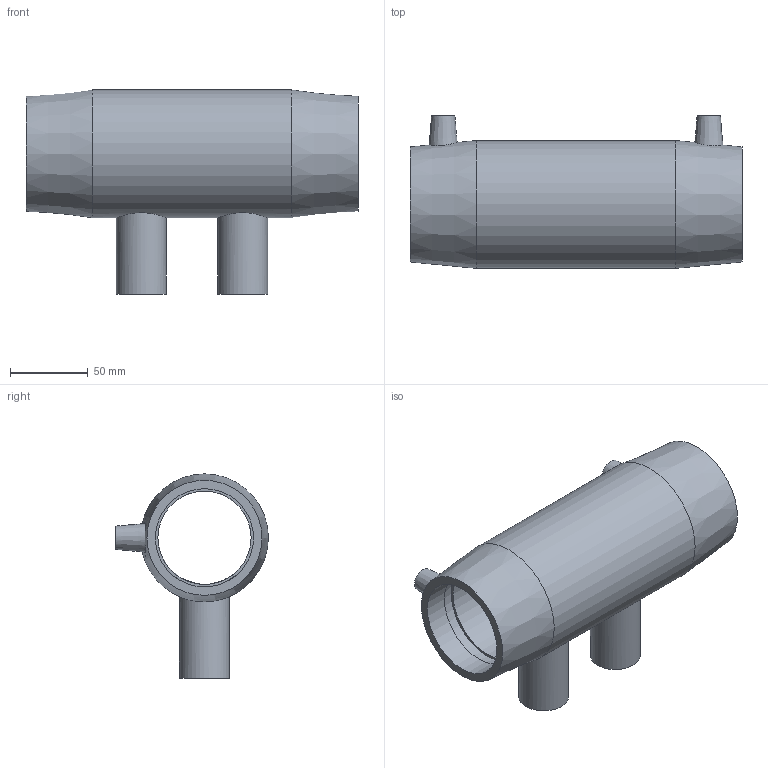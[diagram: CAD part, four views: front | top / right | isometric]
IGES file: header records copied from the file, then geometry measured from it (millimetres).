
Global section: file name: 492404063032.ipt; native system: Autodesk Inventor 2015; preprocessor: unknown; author: KIM; date: 20171106.093930; units: millimetre
Bounding box: 213 x 98 x 131 mm (x, y, z)
Volume: 468117.3 mm3; surface area: 119710.7 mm2
Topology: 1 solids, 1 shells, 34 faces, 82 edges, 60 vertices
Faces by surface type: plane 14, revolution 11, cylinder 5, cone 4
Full cylindrical faces by diameter (mm): 4 x2, 32 x2, 82 x1
